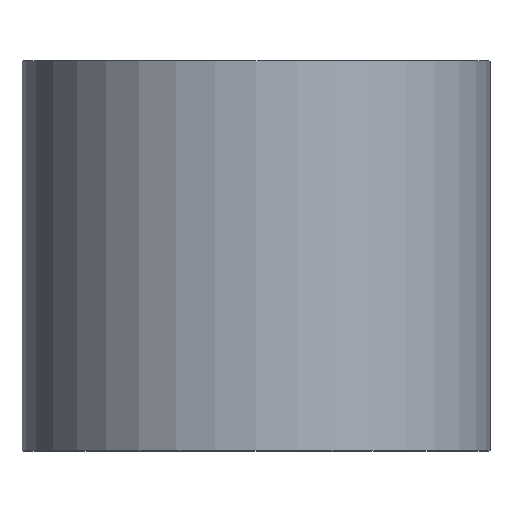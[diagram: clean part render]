
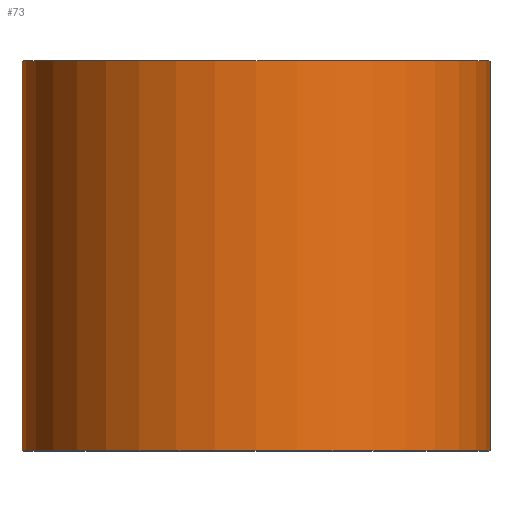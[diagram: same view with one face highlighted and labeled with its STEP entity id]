
A CAD part, top view. The second image highlights one B-rep face of the part: STEP entity #73.
In plain terms, the highlighted cylindrical face has radius 6 mm (diameter 12 mm), a partial arc.
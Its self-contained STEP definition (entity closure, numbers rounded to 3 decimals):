
#7 = CARTESIAN_POINT ( 'NONE',  ( -6., 0., 0. ) ) ;
#27 = DIRECTION ( 'NONE',  ( 0., 1., 0. ) ) ;
#29 = CARTESIAN_POINT ( 'NONE',  ( 6., 0., 0. ) ) ;
#30 = VECTOR ( 'NONE', #238, 1000. ) ;
#40 = EDGE_CURVE ( 'NONE', #230, #243, #130, .T. ) ;
#45 = CARTESIAN_POINT ( 'NONE',  ( 6., 10., 0. ) ) ;
#46 = VECTOR ( 'NONE', #260, 1000. ) ;
#49 = DIRECTION ( 'NONE',  ( -1., 0., 0. ) ) ;
#67 = AXIS2_PLACEMENT_3D ( 'NONE', #209, #27, #49 ) ;
#69 = CARTESIAN_POINT ( 'NONE',  ( 0., 0., 0. ) ) ;
#73 = ADVANCED_FACE ( 'NONE', ( #101 ), #198, .T. ) ;
#81 = CIRCLE ( 'NONE', #264, 6. ) ;
#100 = LINE ( 'NONE', #7, #30 ) ;
#101 = FACE_OUTER_BOUND ( 'NONE', #179, .T. ) ;
#103 = EDGE_CURVE ( 'NONE', #212, #230, #100, .T. ) ;
#130 = CIRCLE ( 'NONE', #67, 6. ) ;
#136 = CARTESIAN_POINT ( 'NONE',  ( -6., 0., 0. ) ) ;
#139 = AXIS2_PLACEMENT_3D ( 'NONE', #237, #254, #281 ) ;
#166 = VERTEX_POINT ( 'NONE', #263 ) ;
#179 = EDGE_LOOP ( 'NONE', ( #301, #241, #218, #282 ) ) ;
#191 = EDGE_CURVE ( 'NONE', #166, #243, #270, .T. ) ;
#198 = CYLINDRICAL_SURFACE ( 'NONE', #139, 6. ) ;
#209 = CARTESIAN_POINT ( 'NONE',  ( 0., 10., 0. ) ) ;
#212 = VERTEX_POINT ( 'NONE', #136 ) ;
#217 = CARTESIAN_POINT ( 'NONE',  ( -6., 10., 0. ) ) ;
#218 = ORIENTED_EDGE ( 'NONE', *, *, #40, .F. ) ;
#230 = VERTEX_POINT ( 'NONE', #217 ) ;
#237 = CARTESIAN_POINT ( 'NONE',  ( 0., 0., 0. ) ) ;
#238 = DIRECTION ( 'NONE',  ( 0., 1., 0. ) ) ;
#240 = EDGE_CURVE ( 'NONE', #212, #166, #81, .T. ) ;
#241 = ORIENTED_EDGE ( 'NONE', *, *, #191, .T. ) ;
#243 = VERTEX_POINT ( 'NONE', #45 ) ;
#254 = DIRECTION ( 'NONE',  ( 0., 1., 0. ) ) ;
#260 = DIRECTION ( 'NONE',  ( 0., 1., 0. ) ) ;
#263 = CARTESIAN_POINT ( 'NONE',  ( 6., 0., 0. ) ) ;
#264 = AXIS2_PLACEMENT_3D ( 'NONE', #69, #273, #275 ) ;
#270 = LINE ( 'NONE', #29, #46 ) ;
#273 = DIRECTION ( 'NONE',  ( 0., 1., 0. ) ) ;
#275 = DIRECTION ( 'NONE',  ( -1., 0., 0. ) ) ;
#281 = DIRECTION ( 'NONE',  ( -1., 0., 0. ) ) ;
#282 = ORIENTED_EDGE ( 'NONE', *, *, #103, .F. ) ;
#301 = ORIENTED_EDGE ( 'NONE', *, *, #240, .T. ) ;
